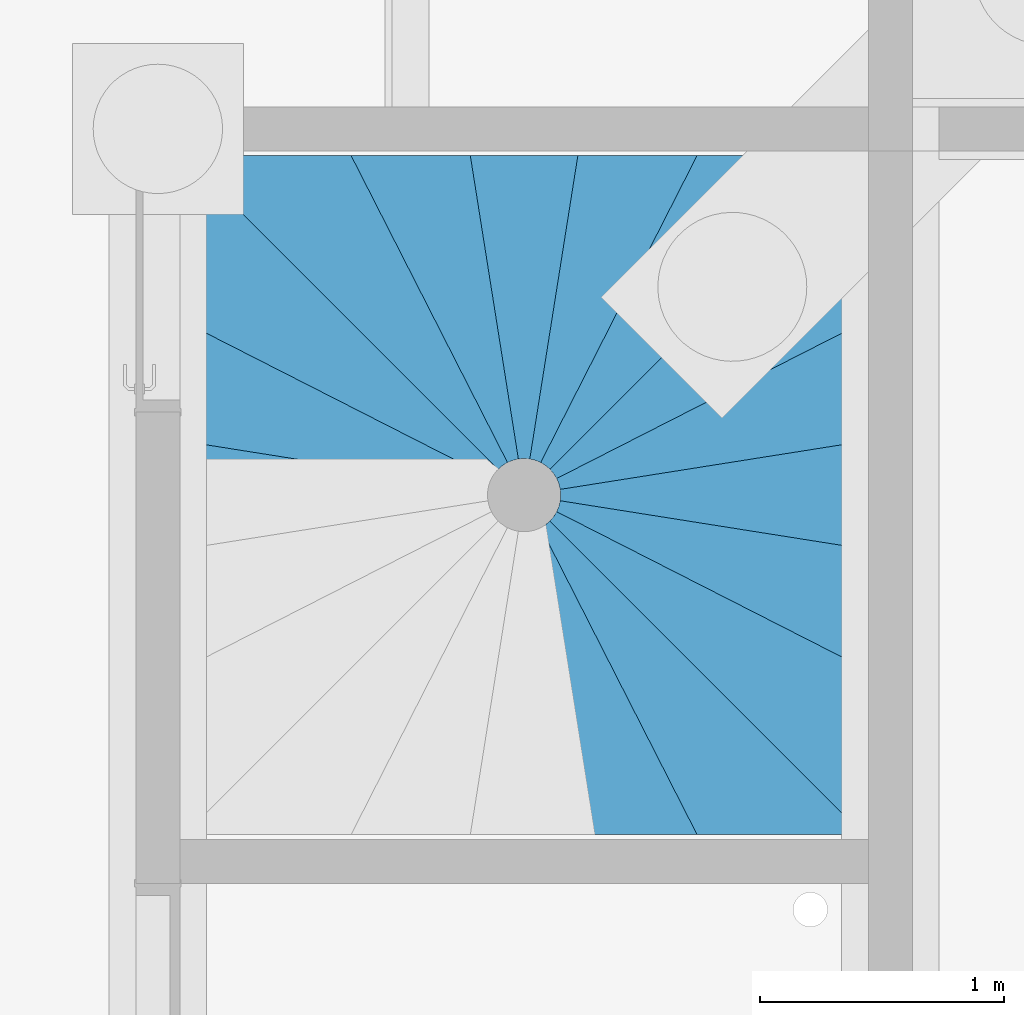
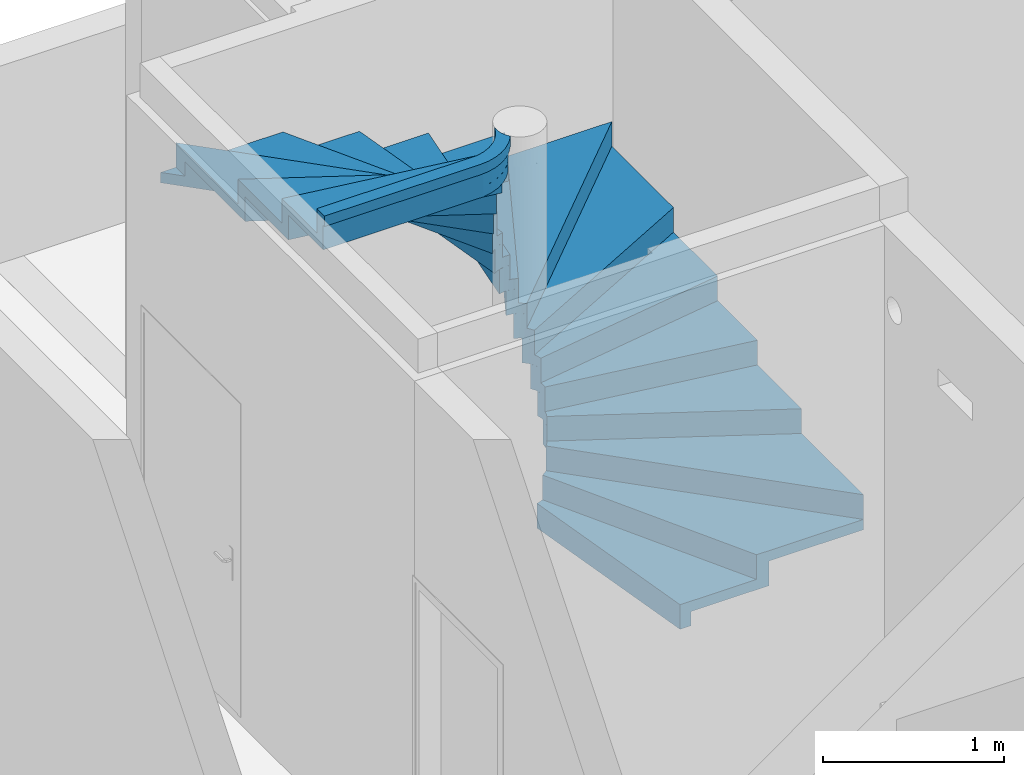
# One storey, part 28 of 29: 1 stair, 1 element without a shape of its own.
"""IFC2X3 building model written with IfcOpenShell, lengths in centimetres."""

from ifc_helpers import new_model, entity, si_unit, converted_unit, derived_unit, direction, frame, origin, place, context, subcontext, project, spatial, faceted_brep, material, element, aggregate, save


model = new_model("IFC2X3")

# Units and contexts
model_context = context("Model", 3, precision=0.001, world=origin(), true_north=direction((6.12303176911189e-17, 1.0)))
body_context = subcontext(model_context, "Body", "Model", "MODEL_VIEW")
ifc_project = project(units=[si_unit("LENGTHUNIT", "METRE", prefix="CENTI"), si_unit("AREAUNIT", "SQUARE_METRE"), si_unit("VOLUMEUNIT", "CUBIC_METRE"), converted_unit("PLANEANGLEUNIT", "DEGREE", entity("IfcRatioMeasure", 0.0174532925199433), si_unit("PLANEANGLEUNIT", "RADIAN"), dimensions=[0, 0, 0, 0, 0, 0, 0]), si_unit("MASSUNIT", "GRAM", prefix="KILO"), derived_unit("MASSDENSITYUNIT", [(si_unit("MASSUNIT", "GRAM", prefix="KILO"), 1), (si_unit("LENGTHUNIT", "METRE"), -3)]), si_unit("TIMEUNIT", "SECOND"), si_unit("FREQUENCYUNIT", "HERTZ"), si_unit("THERMODYNAMICTEMPERATUREUNIT", "DEGREE_CELSIUS"), derived_unit("THERMALTRANSMITTANCEUNIT", [(si_unit("MASSUNIT", "GRAM", prefix="KILO"), 1), (si_unit("THERMODYNAMICTEMPERATUREUNIT", "KELVIN"), -1), (si_unit("TIMEUNIT", "SECOND"), -3)]), derived_unit("VOLUMETRICFLOWRATEUNIT", [(si_unit("LENGTHUNIT", "METRE"), 3), (si_unit("TIMEUNIT", "SECOND"), -1)]), si_unit("ELECTRICCURRENTUNIT", "AMPERE"), si_unit("ELECTRICVOLTAGEUNIT", "VOLT"), si_unit("POWERUNIT", "WATT"), si_unit("FORCEUNIT", "NEWTON"), si_unit("ILLUMINANCEUNIT", "LUX"), si_unit("LUMINOUSFLUXUNIT", "LUMEN"), si_unit("LUMINOUSINTENSITYUNIT", "CANDELA"), derived_unit("USERDEFINED", [(si_unit("MASSUNIT", "GRAM", prefix="KILO"), -1), (si_unit("LENGTHUNIT", "METRE"), -2), (si_unit("TIMEUNIT", "SECOND"), 3), (si_unit("LUMINOUSFLUXUNIT", "LUMEN"), 1)]), derived_unit("LINEARVELOCITYUNIT", [(si_unit("LENGTHUNIT", "METRE"), 1), (si_unit("TIMEUNIT", "SECOND"), -1)]), si_unit("PRESSUREUNIT", "PASCAL"), derived_unit("USERDEFINED", [(si_unit("LENGTHUNIT", "METRE"), -2), (si_unit("MASSUNIT", "GRAM", prefix="KILO"), 1), (si_unit("TIMEUNIT", "SECOND"), -2)])], contexts=[model_context])

# Site, building, storey
site_placement = place(None, origin())
site = spatial("IfcSite", under=ifc_project, at=site_placement, Name="Default", CompositionType="ELEMENT")
building_placement = place(site_placement, origin())
building = spatial("IfcBuilding", under=site, at=building_placement, Name="CAGE 03", CompositionType="ELEMENT")
storey_placement = place(building_placement, frame((0.0, 0.0, -26.0)))
storey = spatial("IfcBuildingStorey", under=building, at=storey_placement, Name="+3.74", CompositionType="ELEMENT", Elevation=-26.0000000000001)

# Stairs
stair_1_placement = place(storey_placement, frame((7023.46984675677, 4652.6606660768, 100.0)))
stair_1 = element("IfcStair", 1, at=stair_1_placement, inside=storey, Name="Escalier:Monobloc-générique", ObjectType="Escalier:Monobloc-générique", ShapeType="NOTDEFINED")
ifc_material = material(Name="Béton, C25/30")
stair_2_placement = place(stair_1_placement, origin())
stair_2 = element("IfcStair", 2, at=stair_2_placement, material=ifc_material, Name="Escalier:Monobloc-générique", ObjectType="Escalier:Monobloc-générique", ShapeType="NOTDEFINED", context=body_context, shape_type="Brep", body=[
    faceted_brep([(170.914912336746, 0.0, 16.625), (227.579795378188, 0.0, 16.625), (161.157915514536, 130.360279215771, 16.625), (159.197912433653, 128.09724567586, 16.625), (156.827528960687, 126.268526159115, 16.625), (154.141189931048, 124.946968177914, 16.625), (151.245906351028, 124.185216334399, 16.625), (159.197912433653, 128.09724567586, 9.62500000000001), (161.157915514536, 130.360279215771, 9.62500000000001), (227.579795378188, 0.0, 9.62500000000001), (170.914912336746, 0.0, 9.62500000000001), (151.245906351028, 124.1852163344, 9.62500000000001), (154.141189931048, 124.946968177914, 9.62500000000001), (156.827528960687, 126.268526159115, 9.62500000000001)], [[[0, 1, 2, 3, 4, 5, 6]], [[7, 8, 9, 10, 11, 12, 13]], [[1, 0, 10, 9]], [[8, 7, 3, 2]], [[4, 3, 7, 13]], [[12, 11, 6, 5]], [[5, 4, 13, 12]], [[0, 6, 11, 10]], [[2, 1, 9, 8]]]),
    faceted_brep([(287.895973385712, 0.0, 33.25), (287.895973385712, 9.90299340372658, 33.25), (163.227378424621, 134.571588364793, 33.25), (162.062533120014, 131.81378369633, 33.25), (160.373228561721, 129.342225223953, 33.25), (158.226754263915, 127.255361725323, 33.25), (155.708610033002, 125.63631854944, 33.25), (219.723511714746, 0.0, 33.25), (162.062533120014, 131.81378369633, 26.25), (163.227378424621, 134.571588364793, 26.25), (287.895973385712, 9.90299340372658, 26.25), (287.895973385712, 0.0, 26.25), (219.723511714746, 0.0, 26.25), (155.708610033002, 125.63631854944, 26.25), (158.226754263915, 127.255361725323, 26.25), (160.373228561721, 129.342225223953, 26.25)], [[[0, 1, 2, 3, 4, 5, 6, 7]], [[8, 9, 10, 11, 12, 13, 14, 15]], [[0, 7, 12, 11]], [[9, 8, 3, 2]], [[4, 3, 8, 15]], [[14, 13, 6, 5]], [[5, 4, 15, 14]], [[7, 6, 13, 12]], [[2, 1, 10, 9]], [[1, 0, 11, 10]]]),
    faceted_brep([(287.895973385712, 0.00349846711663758, 49.875), (287.895973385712, 76.0340254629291, 49.875), (163.894418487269, 139.21597346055, 49.875), (163.638610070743, 136.233293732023, 49.875), (162.795598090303, 133.360812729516, 49.875), (161.398959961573, 130.712942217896, 49.875), (159.504324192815, 128.395147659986, 49.875), (163.638610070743, 136.233293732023, 42.875), (163.894418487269, 139.21597346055, 42.875), (287.895973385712, 76.0340254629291, 42.875), (287.895973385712, 0.00349846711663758, 42.875), (159.504324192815, 128.395147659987, 42.875), (161.398959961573, 130.712942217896, 42.875), (162.795598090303, 133.360812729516, 42.875)], [[[0, 1, 2, 3, 4, 5, 6]], [[7, 8, 9, 10, 11, 12, 13]], [[8, 7, 3, 2]], [[4, 3, 7, 13]], [[12, 11, 6, 5]], [[12, 5, 4, 13]], [[0, 6, 11, 10]], [[1, 0, 10, 9]], [[2, 1, 9, 8]]]),
    faceted_brep([(287.895973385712, 68.1777417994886, 66.5), (287.895973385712, 124.09667145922, 66.5), (163.08519991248, 143.864755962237, 66.5), (163.769530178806, 140.943529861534, 66.5), (163.858794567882, 137.944546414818, 66.5), (163.349421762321, 134.987789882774, 66.5), (162.261790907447, 132.191555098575, 66.5), (163.769530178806, 140.943529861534, 59.5), (163.08519991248, 143.864755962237, 59.5), (287.895973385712, 124.09667145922, 59.5), (287.895973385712, 68.1777417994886, 59.5), (162.261790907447, 132.191555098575, 59.5), (163.349421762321, 134.987789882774, 59.5), (163.858794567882, 137.944546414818, 59.5)], [[[0, 1, 2, 3, 4, 5, 6]], [[7, 8, 9, 10, 11, 12, 13]], [[1, 0, 10, 9]], [[8, 7, 3, 2]], [[4, 3, 7, 13]], [[12, 11, 6, 5]], [[12, 5, 4, 13]], [[0, 6, 11, 10]], [[2, 1, 9, 8]]]),
    faceted_brep([(287.895973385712, 117.009415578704, 83.125), (287.895973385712, 168.102128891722, 83.125), (160.904476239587, 147.988651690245, 83.125), (162.44765980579, 145.430536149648, 83.125), (163.453270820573, 142.617332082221, 83.125), (163.881418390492, 139.660634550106, 83.125), (163.715118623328, 136.677730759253, 83.125), (287.895973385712, 168.102128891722, 76.125), (287.895973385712, 117.009415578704, 76.125), (163.715118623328, 136.677730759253, 76.125), (163.881418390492, 139.660634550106, 76.125), (163.453270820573, 142.617332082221, 76.125), (162.44765980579, 145.430536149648, 76.125), (160.904476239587, 147.988651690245, 76.125)], [[[0, 1, 2, 3, 4, 5, 6]], [[7, 8, 9, 10, 11, 12, 13]], [[1, 0, 8, 7]], [[13, 12, 3, 2]], [[4, 3, 12, 11]], [[10, 9, 6, 5]], [[10, 5, 4, 11]], [[0, 6, 9, 8]], [[2, 1, 7, 13]]]),
    faceted_brep([(162.950524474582, 144.241144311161, 99.75), (163.711385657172, 141.345966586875, 99.75), (287.895973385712, 161.014873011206, 99.75), (287.895973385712, 217.678523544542, 99.75), (157.540057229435, 151.258866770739, 99.75), (159.802166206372, 149.29829879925, 99.75), (161.629919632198, 146.927585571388, 99.75), (157.540057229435, 151.258866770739, 92.75), (287.895973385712, 217.678523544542, 92.75), (287.895973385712, 161.014873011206, 92.75), (163.711385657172, 141.345966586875, 92.75), (162.950524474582, 144.241144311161, 92.75), (161.629919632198, 146.927585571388, 92.75), (159.802166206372, 149.29829879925, 92.75)], [[[0, 1, 2, 3, 4, 5, 6]], [[7, 8, 9, 10, 11, 12, 13]], [[3, 2, 9, 8]], [[7, 13, 5, 4]], [[6, 5, 13, 12]], [[11, 10, 1, 0]], [[11, 0, 6, 12]], [[2, 1, 10, 9]], [[4, 3, 8, 7]]]),
    faceted_brep([(160.643248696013, 148.327460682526, 116.375), (162.261798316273, 145.808430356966, 116.375), (287.895973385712, 209.822239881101, 116.375), (287.895973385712, 278.0, 116.375), (277.996478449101, 278.0, 116.375), (153.327057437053, 153.330578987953, 116.375), (156.085066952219, 152.164988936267, 116.375), (158.556624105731, 150.474834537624, 116.375), (287.895973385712, 278.0, 109.375), (287.895973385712, 209.822239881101, 109.375), (162.261798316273, 145.808430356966, 109.375), (160.643248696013, 148.327460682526, 109.375), (158.556624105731, 150.474834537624, 109.375), (156.085066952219, 152.164988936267, 109.375), (153.327057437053, 153.330578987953, 109.375), (277.996478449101, 278.0, 109.375)], [[[0, 1, 2, 3, 4, 5, 6, 7]], [[8, 9, 10, 11, 12, 13, 14, 15]], [[3, 2, 9, 8]], [[14, 13, 6, 5]], [[7, 6, 13, 12]], [[10, 1, 0, 11]], [[11, 0, 7, 12]], [[2, 1, 10, 9]], [[4, 3, 8, 15]], [[5, 4, 15, 14]]]),
    faceted_brep([(157.185689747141, 151.501224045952, 133.0), (159.502575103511, 149.606601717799, 133.0), (287.895973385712, 278.0, 133.0), (211.867246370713, 278.0, 133.0), (148.685337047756, 153.998521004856, 133.0), (151.667221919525, 153.741783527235, 133.0), (154.538779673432, 152.898155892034, 133.0), (211.867246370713, 278.0, 126.0), (287.895973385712, 278.0, 126.0), (159.502575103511, 149.606601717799, 126.0), (157.185689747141, 151.501224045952, 126.0), (154.538779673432, 152.898155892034, 126.0), (151.667221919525, 153.741783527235, 126.0), (148.685337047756, 153.998521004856, 126.0)], [[[0, 1, 2, 3, 4, 5, 6]], [[7, 8, 9, 10, 11, 12, 13]], [[13, 12, 5, 4]], [[6, 5, 12, 11]], [[9, 1, 0, 10]], [[10, 0, 6, 11]], [[3, 2, 8, 7]], [[4, 3, 7, 13]], [[2, 1, 9, 8]]]),
    faceted_brep([(152.919229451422, 153.450377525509, 149.625), (155.708624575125, 152.363674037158, 149.625), (219.723530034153, 278.0, 149.625), (163.827672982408, 278.0, 149.625), (144.061211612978, 153.199474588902, 149.625), (146.977188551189, 153.876769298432, 149.625), (149.969589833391, 153.961528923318, 149.625), (163.827672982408, 278.0, 142.625), (219.723530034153, 278.0, 142.625), (155.708624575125, 152.363674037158, 142.625), (152.919229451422, 153.450377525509, 142.625), (149.969589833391, 153.961528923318, 142.625), (146.977188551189, 153.876769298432, 142.625), (144.061211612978, 153.199474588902, 142.625)], [[[0, 1, 2, 3, 4, 5, 6]], [[7, 8, 9, 10, 11, 12, 13]], [[3, 2, 8, 7]], [[13, 12, 5, 4]], [[6, 5, 12, 11]], [[9, 1, 0, 10]], [[10, 0, 6, 11]], [[2, 1, 9, 8]], [[4, 3, 7, 13]]]),
    faceted_brep([(142.474002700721, 152.555747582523, 166.25), (145.293841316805, 153.561066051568, 166.25), (148.25715933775, 153.98639104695, 166.25), (151.245922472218, 153.814781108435, 166.25), (170.914928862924, 278.0, 166.25), (119.796798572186, 278.0, 166.25), (139.909962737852, 151.010479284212, 166.25), (119.796798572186, 278.0, 159.25), (170.914928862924, 278.0, 159.25), (151.245922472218, 153.814781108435, 159.25), (148.25715933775, 153.98639104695, 159.25), (145.293841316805, 153.561066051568, 159.25), (142.474002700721, 152.555747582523, 159.25), (139.909962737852, 151.010479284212, 159.25)], [[[0, 1, 2, 3, 4, 5, 6]], [[7, 8, 9, 10, 11, 12, 13]], [[5, 4, 8, 7]], [[13, 12, 0, 6]], [[1, 0, 12, 11]], [[9, 3, 2, 10]], [[2, 1, 11, 10]], [[4, 3, 9, 8]], [[6, 5, 7, 13]]]),
    faceted_brep([(138.599150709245, 149.907586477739, 182.875), (140.970362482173, 151.735175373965, 182.875), (143.657285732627, 153.055466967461, 182.875), (146.552888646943, 153.815868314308, 182.875), (126.884054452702, 278.0, 182.875), (70.2191714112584, 278.0, 182.875), (136.638106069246, 147.645501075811, 182.875), (140.970362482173, 151.735175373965, 175.875), (138.599150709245, 149.907586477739, 175.875), (136.638106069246, 147.645501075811, 175.875), (70.2191714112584, 278.0, 175.875), (126.884054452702, 278.0, 175.875), (146.552888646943, 153.815868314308, 175.875), (143.657285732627, 153.055466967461, 175.875)], [[[0, 1, 2, 3, 4, 5, 6]], [[7, 8, 9, 10, 11, 12, 13]], [[5, 4, 11, 10]], [[9, 8, 0, 6]], [[1, 0, 8, 7]], [[12, 3, 2, 13]], [[2, 1, 7, 13]], [[4, 3, 12, 11]], [[6, 5, 10, 9]]]),
    faceted_brep([(135.732180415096, 146.191283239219, 199.5), (137.422539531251, 148.66231419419, 199.5), (139.569964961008, 150.748428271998, 199.5), (142.088909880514, 152.366521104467, 199.5), (78.0754550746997, 278.0, 199.5), (0.0, 278.0, 199.5), (134.566226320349, 143.433773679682, 199.5), (134.566226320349, 143.433773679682, 192.5), (0.0, 278.0, 192.5), (78.0754550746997, 278.0, 192.5), (142.088909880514, 152.366521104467, 192.5), (139.569964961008, 150.748428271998, 192.5), (137.422539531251, 148.66231419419, 192.5), (135.732180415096, 146.191283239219, 192.5)], [[[0, 1, 2, 3, 4, 5, 6]], [[7, 8, 9, 10, 11, 12, 13]], [[5, 4, 9, 8]], [[7, 13, 0, 6]], [[0, 13, 12, 1]], [[10, 3, 2, 11]], [[12, 11, 2, 1]], [[4, 3, 10, 9]], [[6, 5, 8, 7]]]),
    faceted_brep([(134.154064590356, 141.77058208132, 216.125), (134.997959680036, 144.64315647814, 216.125), (136.395541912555, 147.290911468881, 216.125), (138.291132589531, 149.608362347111, 216.125), (9.89597338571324, 278.003521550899, 216.125), (9.89597338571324, 201.969551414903, 216.125), (133.897476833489, 138.787629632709, 216.125), (9.89597338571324, 278.003521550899, 209.125), (138.291132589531, 149.608362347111, 209.125), (136.395541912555, 147.290911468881, 209.125), (134.997959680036, 144.64315647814, 209.125), (134.154064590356, 141.77058208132, 209.125), (133.897476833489, 138.787629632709, 209.125), (9.89597338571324, 201.969551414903, 209.125)], [[[0, 1, 2, 3, 4, 5, 6]], [[7, 8, 9, 10, 11, 12, 13]], [[5, 4, 7, 13]], [[12, 11, 0, 6]], [[1, 0, 11, 10]], [[8, 3, 2, 9]], [[10, 9, 2, 1]], [[4, 3, 8, 7]], [[6, 5, 13, 12]]]),
    faceted_brep([(134.022192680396, 137.058184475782, 232.75), (133.933308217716, 140.057663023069, 232.75), (134.443247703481, 143.014812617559, 232.75), (135.531602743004, 145.811284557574, 232.75), (9.89597338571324, 209.825835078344, 232.75), (9.89597338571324, 153.904440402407, 232.75), (134.706343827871, 134.136419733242, 232.75), (9.89597338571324, 209.825835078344, 225.75), (135.531602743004, 145.811284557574, 225.75), (134.443247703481, 143.014812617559, 225.75), (133.933308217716, 140.057663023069, 225.75), (134.022192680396, 137.058184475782, 225.75), (134.706343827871, 134.136419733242, 225.75), (9.89597338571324, 153.904440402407, 225.75)], [[[0, 1, 2, 3, 4, 5, 6]], [[7, 8, 9, 10, 11, 12, 13]], [[5, 4, 7, 13]], [[12, 11, 0, 6]], [[1, 0, 11, 10]], [[8, 3, 2, 9]], [[10, 9, 2, 1]], [[4, 3, 8, 7]], [[6, 5, 13, 12]]]),
    faceted_brep([(139.060386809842, 134.819629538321, 249.375), (141.044375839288, 140.219829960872, 249.375), (9.89597338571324, 160.991696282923, 249.375), (9.89597338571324, 115.388215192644, 249.375), (112.265318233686, 115.388215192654, 249.375), (117.897872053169, 116.559844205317, 249.375), (123.25324809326, 118.661825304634, 249.375), (128.178967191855, 121.634310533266, 249.375), (132.534783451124, 125.39266679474, 249.375), (136.196677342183, 129.829885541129, 249.375), (112.265318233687, 115.388215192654, 242.375), (9.89597338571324, 115.388215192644, 242.375), (9.89597338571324, 160.991696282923, 242.375), (141.044375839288, 140.219829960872, 242.375), (139.060386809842, 134.819629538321, 242.375), (136.196677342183, 129.829885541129, 242.375), (132.534783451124, 125.39266679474, 242.375), (128.178967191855, 121.634310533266, 242.375), (123.25324809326, 118.661825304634, 242.375), (117.897872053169, 116.559844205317, 242.375)], [[[0, 1, 2, 3, 4, 5, 6, 7, 8, 9]], [[10, 11, 12, 13, 14, 15, 16, 17, 18, 19]], [[3, 2, 12, 11]], [[2, 1, 13, 12]], [[5, 4, 10, 19]], [[6, 5, 19, 18]], [[6, 18, 17, 7]], [[17, 16, 8, 7]], [[8, 16, 15, 9]], [[9, 15, 14, 0]], [[0, 14, 13, 1]], [[4, 3, 11, 10]]]),
    faceted_brep([(116.819185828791, 123.560472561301, 266.0), (111.818291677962, 122.388215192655, 266.0), (9.89597338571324, 122.388215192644, 266.0), (9.89597338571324, 114.005850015, 266.0), (108.968390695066, 114.005850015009, 266.0), (114.555057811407, 114.469110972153, 266.0), (119.989115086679, 115.846239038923, 266.0), (125.122121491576, 118.099615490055, 266.0), (129.813859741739, 121.167685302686, 266.0), (133.936166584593, 124.966638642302, 266.0), (137.376433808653, 129.392700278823, 266.0), (135.608197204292, 132.040473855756, 266.0), (134.438640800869, 135.00180859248, 266.0), (133.9204589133, 138.1432816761, 266.0), (134.076998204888, 141.323354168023, 266.0), (132.118166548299, 136.575079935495, 266.0), (129.298451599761, 132.28179014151, 266.0), (125.719185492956, 128.597772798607, 266.0), (121.50899636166, 125.655420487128, 266.0), (129.298451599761, 132.28179014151, 259.0), (132.118166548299, 136.575079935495, 259.0), (134.076998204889, 141.323354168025, 259.0), (133.9204589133, 138.1432816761, 259.0), (134.438640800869, 135.00180859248, 259.0), (135.608197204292, 132.040473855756, 259.0), (137.376433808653, 129.392700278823, 259.0), (133.936166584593, 124.966638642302, 259.0), (129.813859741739, 121.167685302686, 259.0), (125.122121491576, 118.099615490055, 259.0), (119.989115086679, 115.846239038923, 259.0), (114.555057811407, 114.469110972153, 259.0), (108.968390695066, 114.00585001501, 259.0), (9.89597338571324, 114.005850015, 259.0), (9.89597338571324, 122.388215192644, 259.0), (111.818291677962, 122.388215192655, 259.0), (116.819185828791, 123.560472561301, 259.0), (121.50899636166, 125.655420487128, 259.0), (125.719185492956, 128.597772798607, 259.0)], [[[0, 1, 2, 3, 4, 5, 6, 7, 8, 9, 10, 11, 12, 13, 14, 15, 16, 17, 18]], [[19, 20, 21, 22, 23, 24, 25, 26, 27, 28, 29, 30, 31, 32, 33, 34, 35, 36, 37]], [[3, 2, 33, 32]], [[15, 14, 21, 20]], [[16, 15, 20, 19]], [[37, 17, 16, 19]], [[34, 1, 0, 35]], [[36, 35, 0, 18]], [[18, 17, 37, 36]], [[2, 1, 34, 33]], [[25, 24, 11, 10]], [[12, 11, 24, 23]], [[21, 14, 13, 22]], [[23, 22, 13, 12]], [[31, 30, 5, 4]], [[7, 6, 29, 28]], [[6, 5, 30, 29]], [[8, 27, 26, 9]], [[9, 26, 25, 10]], [[7, 28, 27, 8]], [[4, 3, 32, 31]]]),
    faceted_brep([(178.002168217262, 0.0, 9.62500000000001), (170.914912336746, 0.0, 9.62500000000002), (170.914912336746, 0.0, 0.0), (178.002168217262, 0.0, 0.0), (157.888259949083, 126.994218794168, 0.0), (154.738413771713, 125.184577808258, 0.0), (154.738413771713, 125.184577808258, 9.62500000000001), (157.888259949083, 126.994218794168, 9.62500000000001), (151.245906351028, 124.185216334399, 0.0), (151.245906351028, 124.185216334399, 9.62500000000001)], [[[0, 1, 2, 3]], [[4, 5, 6, 7]], [[8, 9, 6, 5]], [[2, 1, 9, 8]], [[3, 2, 8, 5, 4]], [[0, 3, 4, 7]], [[1, 0, 7, 6, 9]]]),
    faceted_brep([(227.579795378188, 0.0, 26.25), (219.723511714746, 0.0, 26.25), (219.723511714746, 0.0, 16.625), (227.579795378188, 0.0, 16.625), (161.157915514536, 130.360279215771, 16.625), (158.721391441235, 127.665929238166, 16.625), (158.721391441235, 127.665929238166, 26.25), (161.157915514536, 130.360279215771, 26.25), (155.708610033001, 125.63631854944, 16.625), (155.708610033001, 125.63631854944, 26.25)], [[[0, 1, 2, 3]], [[4, 5, 6, 7]], [[8, 9, 6, 5]], [[2, 1, 9, 8]], [[3, 2, 8, 5, 4]], [[0, 3, 4, 7]], [[1, 0, 7, 6, 9]]]),
    faceted_brep([(287.895973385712, 0.00349846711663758, 42.875), (287.895973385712, 0.00349846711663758, 33.25), (287.895973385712, 9.90299340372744, 33.25), (287.895973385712, 9.90299340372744, 42.875), (163.227378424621, 134.571588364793, 33.25), (161.742566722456, 131.256290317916, 33.25), (161.742566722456, 131.256290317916, 42.875), (163.227378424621, 134.571588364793, 42.875), (159.504324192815, 128.395147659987, 33.25), (159.504324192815, 128.395147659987, 42.875)], [[[0, 1, 2, 3]], [[4, 5, 6, 7]], [[8, 9, 6, 5]], [[1, 0, 9, 8]], [[2, 1, 8, 5, 4]], [[3, 2, 4, 7]], [[0, 3, 7, 6, 9]]]),
    faceted_brep([(287.895973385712, 68.1777417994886, 59.5), (287.895973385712, 68.1777417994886, 49.875), (287.895973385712, 76.0340254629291, 49.875), (287.895973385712, 76.0340254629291, 59.5), (163.894418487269, 139.21597346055, 49.875), (163.506533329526, 135.604188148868, 49.875), (163.506533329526, 135.604188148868, 59.5), (163.894418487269, 139.21597346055, 59.5), (162.261790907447, 132.191555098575, 49.875), (162.261790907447, 132.191555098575, 59.5)], [[[0, 1, 2, 3]], [[4, 5, 6, 7]], [[8, 9, 6, 5]], [[1, 0, 9, 8]], [[2, 1, 8, 5, 4]], [[3, 2, 4, 7]], [[0, 3, 7, 6, 9]]]),
    faceted_brep([(287.895973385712, 117.009415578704, 76.125), (287.895973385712, 117.009415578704, 66.5), (287.895973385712, 124.09667145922, 66.5), (287.895973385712, 124.09667145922, 76.125), (163.08519991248, 143.864755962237, 66.5), (163.838688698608, 140.309678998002, 66.5), (163.838688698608, 140.309678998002, 76.125), (163.08519991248, 143.864755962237, 76.125), (163.715118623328, 136.677730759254, 66.5), (163.715118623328, 136.677730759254, 76.125)], [[[0, 1, 2, 3]], [[4, 5, 6, 7]], [[8, 9, 6, 5]], [[1, 0, 9, 8]], [[2, 1, 8, 5, 4]], [[3, 2, 4, 7]], [[0, 3, 7, 6, 9]]]),
    faceted_brep([(287.895973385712, 161.014873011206, 92.75), (287.895973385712, 161.014873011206, 83.125), (287.895973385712, 168.102128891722, 83.125), (287.895973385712, 168.102128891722, 92.75), (160.904476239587, 147.988651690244, 83.125), (162.713061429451, 144.83849963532, 83.125), (162.713061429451, 144.83849963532, 92.75), (160.904476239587, 147.988651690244, 92.75), (163.711385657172, 141.345966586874, 83.125), (163.711385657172, 141.345966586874, 92.75)], [[[0, 1, 2, 3]], [[4, 5, 6, 7]], [[8, 9, 6, 5]], [[1, 0, 9, 8]], [[2, 1, 8, 5, 4]], [[3, 2, 4, 7]], [[0, 3, 7, 6, 9]]]),
    faceted_brep([(287.895973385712, 209.822239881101, 109.375), (287.895973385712, 209.822239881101, 99.75), (287.895973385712, 217.678523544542, 99.75), (287.895973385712, 217.678523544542, 109.375), (157.540057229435, 151.258866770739, 99.75), (160.233337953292, 148.821617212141, 99.75), (160.233337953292, 148.821617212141, 109.375), (157.540057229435, 151.258866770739, 109.375), (162.261798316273, 145.808430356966, 99.75), (162.261798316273, 145.808430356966, 109.375)], [[[0, 1, 2, 3]], [[4, 5, 6, 7]], [[8, 9, 6, 5]], [[1, 0, 9, 8]], [[2, 1, 8, 5, 4]], [[3, 2, 4, 7]], [[0, 3, 7, 6, 9]]]),
    faceted_brep([(219.723530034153, 278.0, 133.0), (211.867246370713, 278.0, 133.0), (211.867246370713, 278.0, 142.625), (219.723530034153, 278.0, 142.625), (148.685337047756, 153.998521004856, 133.0), (152.296683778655, 153.609420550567, 133.0), (152.296683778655, 153.609420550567, 142.625), (148.685337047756, 153.998521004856, 142.625), (155.708624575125, 152.363674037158, 133.0), (155.708624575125, 152.363674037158, 142.625)], [[[0, 1, 2, 3]], [[4, 5, 6, 7]], [[8, 9, 6, 5]], [[0, 3, 9, 8]], [[1, 0, 8, 5, 4]], [[2, 1, 4, 7]], [[3, 2, 7, 6, 9]]]),
    faceted_brep([(170.914928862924, 278.0, 149.625), (163.827672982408, 278.0, 149.625), (163.827672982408, 278.0, 159.25), (170.914928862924, 278.0, 159.25), (144.061211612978, 153.199474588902, 149.625), (147.616042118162, 153.945292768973, 149.625), (147.616042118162, 153.945292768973, 159.25), (144.061211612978, 153.199474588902, 159.25), (151.245922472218, 153.814781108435, 149.625), (151.245922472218, 153.814781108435, 159.25)], [[[0, 1, 2, 3]], [[4, 5, 6, 7]], [[8, 9, 6, 5]], [[0, 3, 9, 8]], [[1, 0, 8, 5, 4]], [[2, 1, 4, 7]], [[3, 2, 7, 6, 9]]]),
    faceted_brep([(126.884054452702, 278.0, 166.25), (119.796798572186, 278.0, 166.25), (119.796798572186, 278.0, 175.875), (126.884054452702, 278.0, 175.875), (143.060336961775, 152.818297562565, 166.25), (143.060336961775, 152.818297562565, 175.875), (139.909962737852, 151.010479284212, 175.875), (139.909962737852, 151.010479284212, 166.25), (146.552888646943, 153.815868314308, 166.25), (146.552888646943, 153.815868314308, 175.875)], [[[0, 1, 2, 3]], [[4, 5, 6, 7]], [[8, 9, 5, 4]], [[0, 3, 9, 8]], [[1, 0, 8, 4, 7]], [[2, 1, 7, 6]], [[3, 2, 6, 5, 9]]]),
    faceted_brep([(78.0754550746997, 278.0, 182.875), (70.2191714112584, 278.0, 182.875), (70.2191714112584, 278.0, 192.5), (78.0754550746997, 278.0, 192.5), (136.638106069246, 147.645501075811, 192.5), (136.638106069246, 147.645501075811, 182.875), (139.075591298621, 150.338434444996, 182.875), (139.075591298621, 150.338434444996, 192.5), (142.088909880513, 152.366521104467, 182.875), (142.088909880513, 152.366521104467, 192.5)], [[[0, 1, 2, 3]], [[4, 5, 6, 7]], [[8, 9, 7, 6]], [[0, 3, 9, 8]], [[1, 0, 8, 6, 5]], [[2, 1, 5, 4]], [[3, 2, 4, 7, 9]]]),
    faceted_brep([(9.89597338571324, 278.003521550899, 209.125), (9.89597338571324, 278.003521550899, 199.5), (9.89597338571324, 268.104026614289, 199.5), (9.89597338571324, 268.104026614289, 209.125), (134.566226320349, 143.433773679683, 199.5), (136.052110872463, 146.748238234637, 199.5), (136.052110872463, 146.748238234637, 209.125), (134.566226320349, 143.433773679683, 209.125), (138.291132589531, 149.608362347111, 199.5), (138.291132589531, 149.608362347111, 209.125)], [[[0, 1, 2, 3]], [[4, 5, 6, 7]], [[8, 9, 6, 5]], [[1, 0, 9, 8]], [[2, 1, 8, 5, 4]], [[3, 2, 4, 7]], [[0, 3, 7, 6, 9]]]),
    faceted_brep([(9.89597338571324, 209.825835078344, 225.75), (9.89597338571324, 209.825835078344, 216.125), (9.89597338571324, 201.969551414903, 216.125), (9.89597338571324, 201.969551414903, 225.75), (133.897476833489, 138.787629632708, 216.125), (134.28618245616, 142.399118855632, 216.125), (134.28618245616, 142.399118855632, 225.75), (133.897476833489, 138.787629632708, 225.75), (135.531602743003, 145.811284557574, 216.125), (135.531602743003, 145.811284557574, 225.75)], [[[0, 1, 2, 3]], [[4, 5, 6, 7]], [[8, 9, 6, 5]], [[1, 0, 9, 8]], [[2, 1, 8, 5, 4]], [[3, 2, 4, 7]], [[0, 3, 7, 6, 9]]]),
    faceted_brep([(9.89597338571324, 160.991696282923, 242.375), (9.89597338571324, 160.991696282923, 232.75), (9.89597338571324, 153.904440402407, 232.75), (9.89597338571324, 153.904440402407, 242.375), (138.43357642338, 133.546084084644, 232.75), (139.91480198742, 136.814173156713, 232.75), (139.91480198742, 136.814173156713, 242.375), (138.43357642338, 133.546084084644, 242.375), (141.044375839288, 140.219829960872, 232.75), (141.044375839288, 140.219829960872, 242.375)], [[[0, 1, 2, 3]], [[4, 5, 6, 7]], [[6, 5, 8, 9]], [[1, 0, 9, 8]], [[2, 1, 8, 5, 4]], [[3, 2, 4, 7]], [[0, 3, 7, 6, 9]]]),
    faceted_brep([(116.819185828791, 123.560472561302, 249.375), (111.818291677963, 122.388215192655, 249.375), (111.818291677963, 122.388215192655, 259.0), (116.819185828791, 123.560472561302, 259.0), (121.508996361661, 125.655420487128, 249.375), (121.508996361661, 125.655420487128, 259.0), (125.719185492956, 128.597772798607, 249.375), (125.719185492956, 128.597772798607, 259.0), (132.118166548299, 136.575079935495, 249.375), (129.298451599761, 132.281790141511, 249.375), (129.298451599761, 132.281790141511, 259.0), (132.118166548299, 136.575079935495, 259.0), (134.076998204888, 141.323354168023, 249.375), (134.076998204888, 141.323354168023, 259.0), (134.653897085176, 127.771645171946, 249.375), (138.267848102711, 133.230387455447, 249.375), (130.0632704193, 123.104241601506, 249.375), (124.665215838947, 119.400255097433, 249.375), (118.658749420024, 116.796244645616, 249.375), (112.04816975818, 118.889304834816, 249.375), (112.265318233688, 115.388215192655, 249.375), (9.89597338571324, 115.388215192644, 249.375), (9.89597338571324, 122.388215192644, 249.375), (140.771883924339, 139.279214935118, 249.375), (112.265318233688, 115.388215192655, 259.0), (118.658749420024, 116.796244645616, 259.0), (124.665215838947, 119.400255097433, 259.0), (130.0632704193, 123.104241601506, 259.0), (138.267848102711, 133.230387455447, 259.0), (134.653897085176, 127.771645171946, 259.0), (140.771883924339, 139.279214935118, 259.0), (112.048169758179, 118.889304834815, 259.0), (9.89597338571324, 115.388215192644, 259.0), (9.89597338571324, 122.388215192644, 259.0)], [[[0, 1, 2, 3]], [[4, 0, 3, 5]], [[6, 4, 5, 7]], [[8, 9, 10, 11]], [[12, 8, 11, 13]], [[10, 9, 6, 7]], [[14, 6, 9]], [[15, 14, 9]], [[14, 16, 6]], [[6, 16, 4]], [[17, 4, 16]], [[0, 4, 17]], [[17, 18, 0]], [[18, 19, 0]], [[20, 19, 18]], [[19, 20, 21]], [[19, 21, 1]], [[21, 22, 1]], [[19, 1, 0]], [[15, 9, 8]], [[15, 8, 23]], [[23, 8, 12]], [[24, 20, 18, 25]], [[25, 18, 17, 26]], [[17, 16, 27, 26]], [[28, 29, 14, 15]], [[30, 28, 15, 23]], [[14, 29, 27, 16]], [[10, 7, 29]], [[10, 29, 28]], [[11, 10, 28]], [[7, 27, 29]], [[5, 27, 7]], [[27, 5, 26]], [[26, 5, 3]], [[3, 25, 26]], [[3, 31, 25]], [[3, 2, 31]], [[32, 31, 2]], [[33, 32, 2]], [[31, 32, 24]], [[25, 31, 24]], [[30, 11, 28]], [[13, 11, 30]], [[22, 33, 2, 1]], [[32, 21, 20, 24]], [[33, 22, 21, 32]], [[30, 23, 12, 13]]]),
    faceted_brep([(287.895973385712, 278.0, 116.375), (277.996478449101, 278.0, 116.375), (277.996478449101, 278.0, 126.0), (287.895973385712, 278.0, 126.0), (153.327057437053, 153.330578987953, 116.375), (156.641940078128, 151.845232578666, 116.375), (156.641940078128, 151.845232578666, 126.0), (153.327057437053, 153.330578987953, 126.0), (159.502575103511, 149.606601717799, 116.375), (159.502575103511, 149.606601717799, 126.0)], [[[0, 1, 2, 3]], [[4, 5, 6, 7]], [[8, 9, 6, 5]], [[0, 3, 9, 8]], [[1, 0, 8, 5, 4]], [[2, 1, 4, 7]], [[3, 2, 7, 6, 9]]]),
])
aggregate(stair_1, [stair_2])

save(model, "model.ifc")
